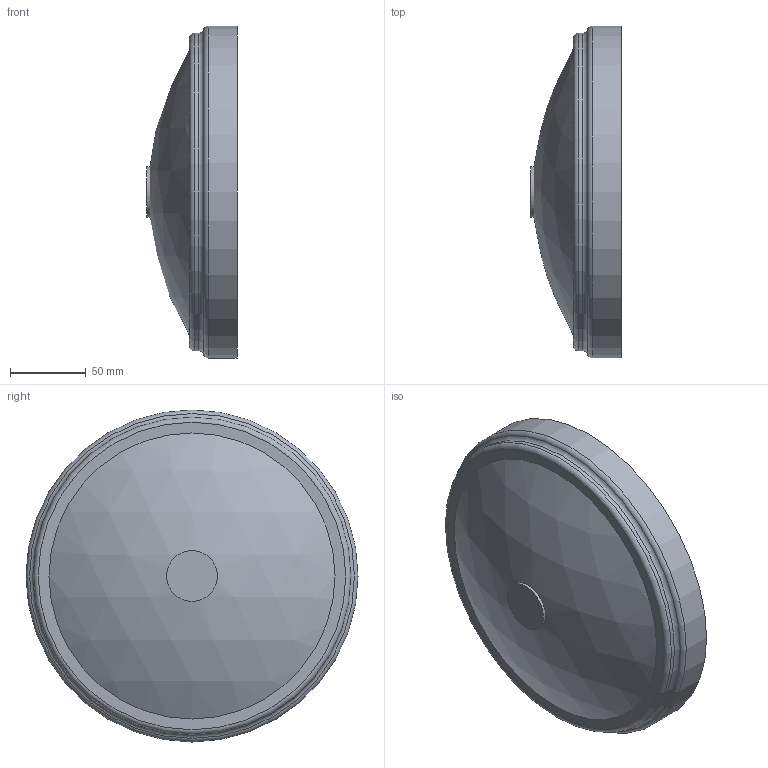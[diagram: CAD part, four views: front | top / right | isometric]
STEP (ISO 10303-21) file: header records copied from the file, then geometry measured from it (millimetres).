
FILE_DESCRIPTION(/* description */ ('VIC STRENGTHIN CAP No E496 w/Tap 1/2 inch BSPT (Concentric)','CAx-IF Rec.Pracs.---Representation and Presentation of Product Manufacturing Information (PMI)---4.0---2014-10-13'),/* implementation_level */ '2;1');
FILE_NAME(/* name */ 'C:\Users\Vjadhav\AppData\Roaming\Autodesk\ApplicationPlugins\Back Up\Victaulic_SS-StrengThin 100_Cap With Tap_No E496 (ST1)\Victaulic_SS-StrengThin 100_Cap With Tap_No E496 (ST1)_08.0x01.0 (200x25).stp',/* time_stamp */ '2020-07-07T18:47:15+05:00',/* author */ ('jheald'),/* organization */ ('Victaulic'),/* preprocessor_version */ 'ST-DEVELOPER v17.2',/* originating_system */ 'Autodesk Inventor 2019',/* authorisation */ '');
FILE_SCHEMA (('AP242_MANAGED_MODEL_BASED_3D_ENGINEERING_MIM_LF { 1 0 10303 442 1 1 4 }'));
Length unit declared in the file: inch
Products named in the file (1): E496-08.0x01.0
Bounding box: 59.44 x 219.07 x 219.07 mm (x, y, z)
Volume: 382592.5 mm3; surface area: 110484.6 mm2
Topology: 1 solids, 1 shells, 13 faces, 31 edges, 23 vertices
Faces by surface type: cylinder 4, torus 4, plane 3, sphere 2
Full cylindrical faces by diameter (mm): 33.401 x1, 202.717 x1, 209.55 x1, 219.075 x1
Entity records: 553 total; most frequent: DIRECTION 112, CARTESIAN_POINT 85, ORIENTED_EDGE 62, AXIS2_PLACEMENT_3D 54, EDGE_CURVE 31, CIRCLE 27, VERTEX_POINT 23, EDGE_LOOP 16
